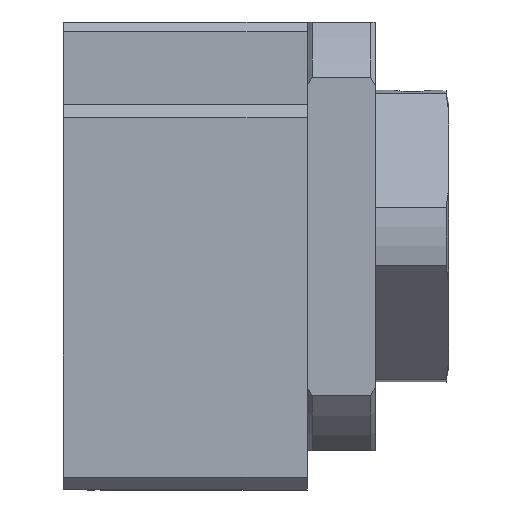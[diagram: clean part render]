
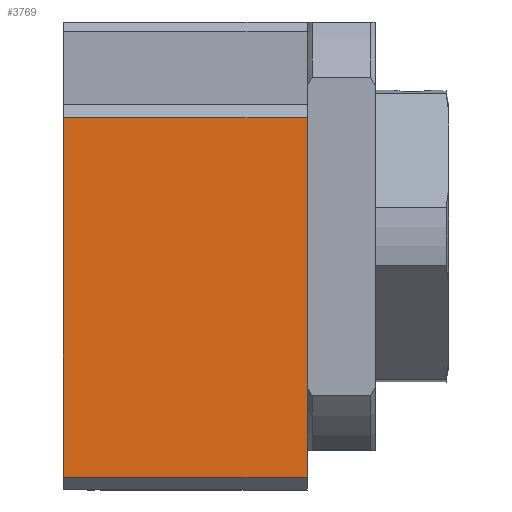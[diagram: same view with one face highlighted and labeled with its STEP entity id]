
A CAD part, left-side view. The second image highlights one B-rep face of the part: STEP entity #3769.
In plain terms, the highlighted free-form (B-spline) face has degree [1, 1] with [2, 2] control points.
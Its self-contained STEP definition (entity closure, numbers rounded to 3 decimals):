
#3163=CARTESIAN_POINT('',(-70.,24.36,0.));
#3164=VERTEX_POINT('',#3163);
#3171=CARTESIAN_POINT('',(-70.,24.36,-50.));
#3172=VERTEX_POINT('',#3171);
#3178=CARTESIAN_POINT('',(-70.,24.36,-50.));
#3179=CARTESIAN_POINT('',(-70.,24.36,0.));
#3180=B_SPLINE_CURVE_WITH_KNOTS('',1,(#3178,#3179),.POLYLINE_FORM.,.F.,.U.,(2,2),(0.,1.),.UNSPECIFIED.);
#3181=EDGE_CURVE('',#3172,#3164,#3180,.T.);
#3707=CARTESIAN_POINT('',(-70.,-49.36,0.));
#3708=VERTEX_POINT('',#3707);
#3714=CARTESIAN_POINT('',(-70.,-49.36,-50.));
#3715=VERTEX_POINT('',#3714);
#3716=CARTESIAN_POINT('',(-70.,-49.36,0.));
#3717=CARTESIAN_POINT('',(-70.,-49.36,-50.));
#3718=B_SPLINE_CURVE_WITH_KNOTS('',1,(#3716,#3717),.POLYLINE_FORM.,.F.,.U.,(2,2),(0.,1.),.UNSPECIFIED.);
#3719=EDGE_CURVE('',#3708,#3715,#3718,.T.);
#3750=CARTESIAN_POINT('',(-70.,-109.255,-183.615));
#3751=CARTESIAN_POINT('',(-70.,157.975,-183.615));
#3752=CARTESIAN_POINT('',(-70.,-109.255,83.615));
#3753=CARTESIAN_POINT('',(-70.,157.975,83.615));
#3754=B_SPLINE_SURFACE_WITH_KNOTS('',1,1,((#3750,#3751),(#3752,#3753)),.PLANE_SURF.,.F.,.F.,.U.,(2,2),(2,2),(0.,1.),(0.,1.),.UNSPECIFIED.);
#3755=CARTESIAN_POINT('',(-70.,24.36,0.));
#3756=CARTESIAN_POINT('',(-70.,-49.36,0.));
#3757=B_SPLINE_CURVE_WITH_KNOTS('',1,(#3755,#3756),.POLYLINE_FORM.,.F.,.U.,(2,2),(0.,1.),.UNSPECIFIED.);
#3758=EDGE_CURVE('',#3164,#3708,#3757,.T.);
#3759=ORIENTED_EDGE('',*,*,#3758,.F.);
#3760=ORIENTED_EDGE('',*,*,#3181,.F.);
#3761=CARTESIAN_POINT('',(-70.,-49.36,-50.));
#3762=CARTESIAN_POINT('',(-70.,24.36,-50.));
#3763=B_SPLINE_CURVE_WITH_KNOTS('',1,(#3761,#3762),.POLYLINE_FORM.,.F.,.U.,(2,2),(0.,1.),.UNSPECIFIED.);
#3764=EDGE_CURVE('',#3715,#3172,#3763,.T.);
#3765=ORIENTED_EDGE('',*,*,#3764,.F.);
#3766=ORIENTED_EDGE('',*,*,#3719,.F.);
#3767=EDGE_LOOP('',(#3759,#3760,#3765,#3766));
#3768=FACE_OUTER_BOUND('',#3767,.T.);
#3769=ADVANCED_FACE('',(#3768),#3754,.T.);
